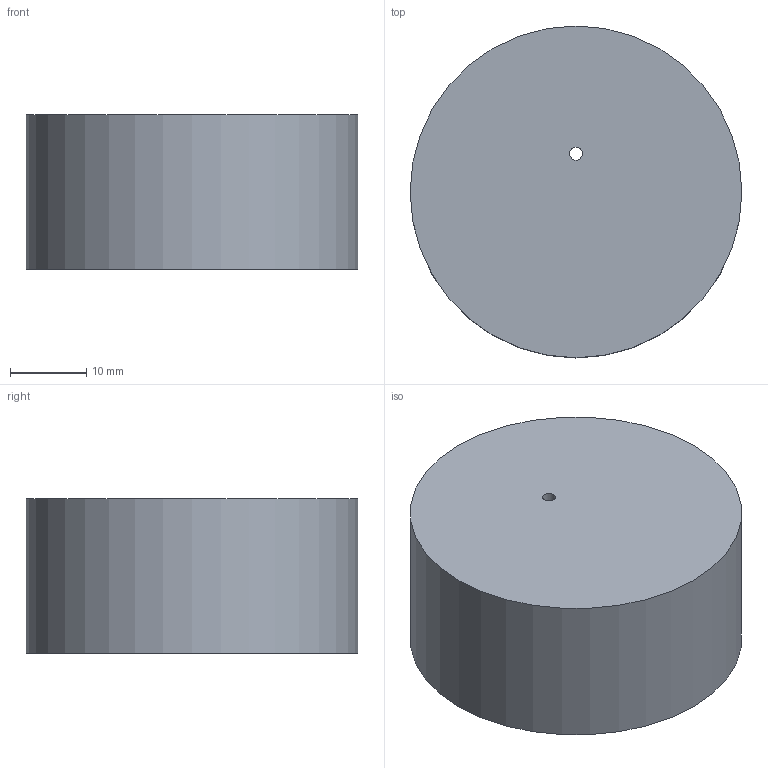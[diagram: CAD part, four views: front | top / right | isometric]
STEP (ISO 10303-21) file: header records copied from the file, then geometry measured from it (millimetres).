
FILE_DESCRIPTION( ('This file contains a STEP AP42 implementation' ,'as created by ZW3D STEP Interface translator.') ,'2;1' );
FILE_NAME( 'OGZ-41.stp' ,'26 521. 83740', (''), ('ZWCAD Software Co.'), 'Version 1.0', 'ZW3D to STEP translator', '' );
FILE_SCHEMA(('AP242_MANAGED_MODEL_BASED_3D_ENGINEERING_MIM_LF { 1 0 10303 442 1 1 4 }'));
Length unit declared in the file: millimetre
Products named in the file (1): 0
Bounding box: 43.5 x 43.5 x 20.3 mm (x, y, z)
Volume: 5114.2 mm3; surface area: 8176.8 mm2
Topology: 1 solids, 1 shells, 6 faces, 9 edges, 6 vertices
Faces by surface type: cylinder 3, plane 3
Full cylindrical faces by diameter (mm): 1.7 x1, 41.3 x1, 43.5 x1
Entity records: 169 total; most frequent: DIRECTION 29, CARTESIAN_POINT 22, ORIENTED_EDGE 18, AXIS2_PLACEMENT_3D 13, EDGE_CURVE 9, EDGE_LOOP 9, VERTEX_POINT 6, CIRCLE 6
